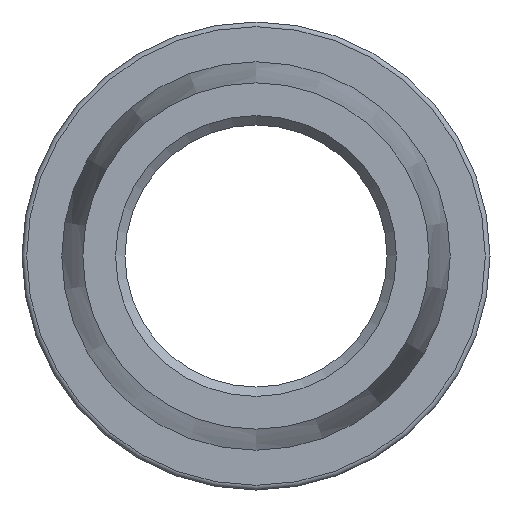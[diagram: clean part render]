
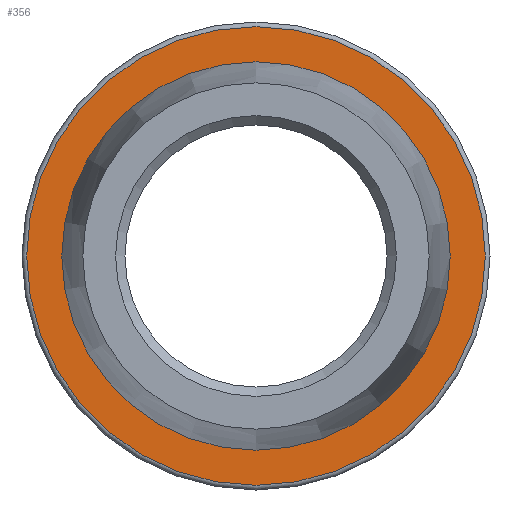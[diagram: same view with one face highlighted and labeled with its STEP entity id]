
A CAD part, front view. The second image highlights one B-rep face of the part: STEP entity #356.
In plain terms, the highlighted planar face has unit normal (0, -1, 0).
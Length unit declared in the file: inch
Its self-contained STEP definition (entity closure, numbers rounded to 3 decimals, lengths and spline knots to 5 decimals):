
#37=FACE_BOUND('',#86,.T.);
#44=PLANE('',#423);
#61=FACE_OUTER_BOUND('',#85,.T.);
#85=EDGE_LOOP('',(#314,#315));
#86=EDGE_LOOP('',(#316,#317));
#136=CIRCLE('',#415,0.245);
#140=CIRCLE('',#419,0.245);
#143=CIRCLE('',#424,0.14);
#144=CIRCLE('',#425,0.14);
#175=VERTEX_POINT('',#644);
#176=VERTEX_POINT('',#645);
#181=VERTEX_POINT('',#660);
#182=VERTEX_POINT('',#661);
#220=EDGE_CURVE('',#175,#176,#136,.T.);
#224=EDGE_CURVE('',#176,#175,#140,.T.);
#228=EDGE_CURVE('',#181,#182,#143,.T.);
#229=EDGE_CURVE('',#182,#181,#144,.T.);
#314=ORIENTED_EDGE('',*,*,#220,.F.);
#315=ORIENTED_EDGE('',*,*,#224,.F.);
#316=ORIENTED_EDGE('',*,*,#228,.F.);
#317=ORIENTED_EDGE('',*,*,#229,.F.);
#356=ADVANCED_FACE('',(#61,#37),#44,.T.);
#415=AXIS2_PLACEMENT_3D('',#646,#526,#527);
#419=AXIS2_PLACEMENT_3D('',#652,#534,#535);
#423=AXIS2_PLACEMENT_3D('',#659,#543,#544);
#424=AXIS2_PLACEMENT_3D('',#662,#545,#546);
#425=AXIS2_PLACEMENT_3D('',#663,#547,#548);
#526=DIRECTION('center_axis',(0.,1.,0.));
#527=DIRECTION('ref_axis',(0.,0.,1.));
#534=DIRECTION('center_axis',(0.,1.,0.));
#535=DIRECTION('ref_axis',(0.,0.,1.));
#543=DIRECTION('center_axis',(0.,-1.,0.));
#544=DIRECTION('ref_axis',(0.,0.,-1.));
#545=DIRECTION('center_axis',(0.,-1.,0.));
#546=DIRECTION('ref_axis',(1.,0.,0.));
#547=DIRECTION('center_axis',(0.,-1.,0.));
#548=DIRECTION('ref_axis',(1.,0.,0.));
#644=CARTESIAN_POINT('',(0.,-0.03,-0.245));
#645=CARTESIAN_POINT('',(0.,-0.03,0.245));
#646=CARTESIAN_POINT('Origin',(0.,-0.03,0.));
#652=CARTESIAN_POINT('Origin',(0.,-0.03,0.));
#659=CARTESIAN_POINT('Origin',(0.,-0.03,-0.14));
#660=CARTESIAN_POINT('',(0.,-0.03,-0.14));
#661=CARTESIAN_POINT('',(0.,-0.03,0.14));
#662=CARTESIAN_POINT('Origin',(0.,-0.03,0.));
#663=CARTESIAN_POINT('Origin',(0.,-0.03,0.));
